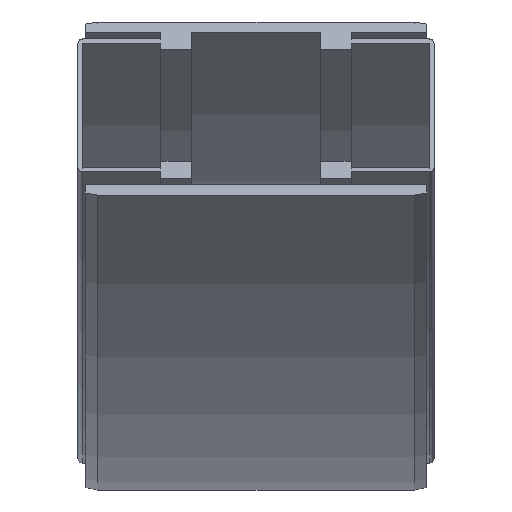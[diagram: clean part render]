
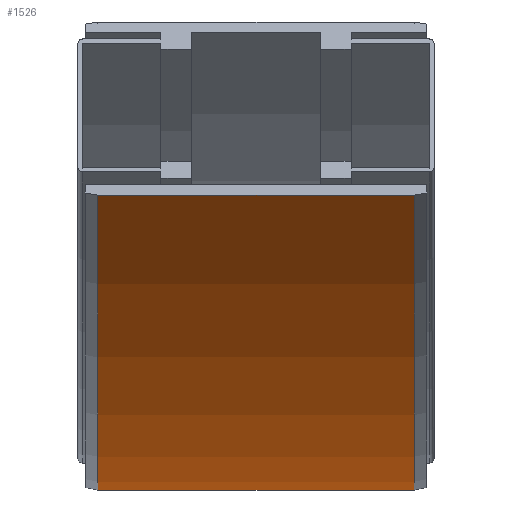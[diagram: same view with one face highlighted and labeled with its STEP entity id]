
A CAD part, left-side view. The second image highlights one B-rep face of the part: STEP entity #1526.
In plain terms, the highlighted cylindrical face has radius 902.5 mm (diameter 1805 mm), a partial arc.
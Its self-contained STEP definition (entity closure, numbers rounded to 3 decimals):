
#80=CYLINDRICAL_SURFACE('',#1643,902.5);
#149=FACE_OUTER_BOUND('',#236,.T.);
#236=EDGE_LOOP('',(#1052,#1053,#1054,#1055));
#323=CIRCLE('',#1633,902.5);
#328=CIRCLE('',#1642,902.5);
#400=LINE('',#2215,#526);
#401=LINE('',#2216,#527);
#526=VECTOR('',#1808,10.);
#527=VECTOR('',#1809,10.);
#643=VERTEX_POINT('',#2183);
#644=VERTEX_POINT('',#2185);
#652=VERTEX_POINT('',#2209);
#653=VERTEX_POINT('',#2211);
#799=EDGE_CURVE('',#643,#644,#323,.T.);
#813=EDGE_CURVE('',#652,#653,#328,.T.);
#814=EDGE_CURVE('',#643,#652,#400,.T.);
#815=EDGE_CURVE('',#644,#653,#401,.T.);
#1052=ORIENTED_EDGE('',*,*,#814,.T.);
#1053=ORIENTED_EDGE('',*,*,#813,.T.);
#1054=ORIENTED_EDGE('',*,*,#815,.F.);
#1055=ORIENTED_EDGE('',*,*,#799,.F.);
#1526=ADVANCED_FACE('',(#149),#80,.T.);
#1633=AXIS2_PLACEMENT_3D('',#2186,#1777,#1778);
#1642=AXIS2_PLACEMENT_3D('',#2213,#1804,#1805);
#1643=AXIS2_PLACEMENT_3D('',#2214,#1806,#1807);
#1777=DIRECTION('center_axis',(0.,1.,0.));
#1778=DIRECTION('ref_axis',(0.,0.,-1.));
#1804=DIRECTION('center_axis',(0.,1.,0.));
#1805=DIRECTION('ref_axis',(0.,0.,-1.));
#1806=DIRECTION('center_axis',(0.,1.,0.));
#1807=DIRECTION('ref_axis',(0.,0.,-1.));
#1808=DIRECTION('',(0.,-1.,0.));
#1809=DIRECTION('',(0.,-1.,0.));
#2183=CARTESIAN_POINT('',(0.,65.,-42.5));
#2185=CARTESIAN_POINT('',(-451.25,65.,78.412));
#2186=CARTESIAN_POINT('Origin',(0.,65.,
860.));
#2209=CARTESIAN_POINT('',(0.,-65.,-42.5));
#2211=CARTESIAN_POINT('',(-451.25,-65.,78.412));
#2213=CARTESIAN_POINT('Origin',(0.,-65.,
860.));
#2214=CARTESIAN_POINT('Origin',(0.,0.,860.));
#2215=CARTESIAN_POINT('',(0.,65.,-42.5));
#2216=CARTESIAN_POINT('',(-451.25,65.,78.412));
